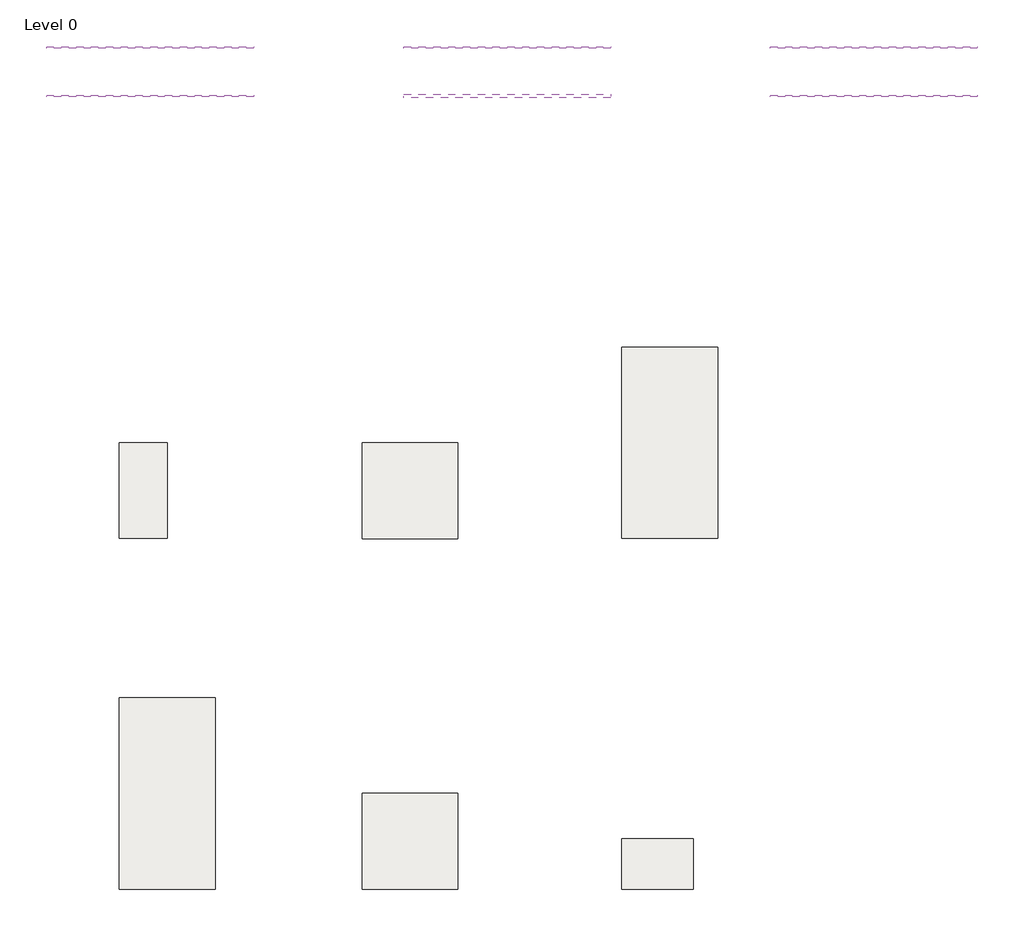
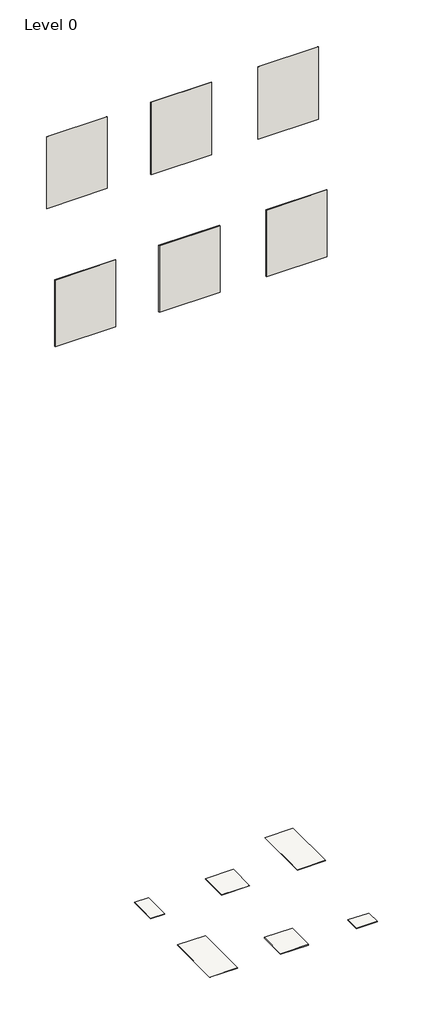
# One storey: 6 slabs, 6 walls.
"""IFC4 building model written with IfcOpenShell, lengths in millimetres."""

from ifc_helpers import new_model, si_unit, frame, origin, place, context, project, spatial, polyline, outline, extrude, element, save

model = new_model("IFC4")

# Units and contexts
model_context = context("Model", 3, world=origin())
ifc_project = project(units=[si_unit("LENGTHUNIT", "METRE", prefix="MILLI")], contexts=[model_context])

# Site, building, storey
site = spatial("IfcSite", under=ifc_project)
building = spatial("IfcBuilding", under=site)
storey = spatial("IfcBuildingStorey", under=building, Name="Level 0", Elevation=0.0)

# Slabs
placement = place(None, origin())
element("IfcSlab", 1, ObjectType="Floor_Tiles_Refin-Blended-Dark-60x120 OA54", at=placement, inside=storey, context=model_context, shape_type="SweptSolid", body=[
    extrude(outline(polyline([(10127.1861419, 6259.4623743), (10127.1861419, 5059.4623743), (9527.1861419, 5059.4623743), (9527.1861419, 6259.4623743), (10127.1861419, 6259.4623743)])), frame((0.0, 0.0, -10.0), z_axis=(0.0, 0.0, 1.0), x_axis=(1.0, 0.0, 0.0)), (0.0, 0.0, 1.0), 10.0),
])
element("IfcSlab", 2, ObjectType="Floor_Tiles_Refin-Blended-Dark-30x60 OA89", at=placement, inside=storey, context=model_context, shape_type="SweptSolid", body=[
    extrude(outline(polyline([(6674.3752062, 5659.4623743), (6674.3752062, 5059.4623743), (6374.3752062, 5059.4623743), (6374.3752062, 5659.4623743), (6674.3752062, 5659.4623743)])), frame((0.0, 0.0, -10.0), z_axis=(0.0, 0.0, 1.0), x_axis=(1.0, 0.0, 0.0)), (0.0, 0.0, 1.0), 10.0),
])
element("IfcSlab", 3, ObjectType="Floor_Tiles_Refin-Blended-Dark-OUT2.0_60X60_OA94", at=placement, inside=storey, context=model_context, shape_type="SweptSolid", body=[
    extrude(outline(polyline([(8497.3924055, 3459.4623743), (8497.3924055, 2859.4623743), (7897.3924055, 2859.4623743), (7897.3924055, 3459.4623743), (8497.3924055, 3459.4623743)])), frame((0.0, 0.0, -21.0), z_axis=(0.0, 0.0, 1.0), x_axis=(1.0, 0.0, 0.0)), (0.0, 0.0, 1.0), 21.0),
])
element("IfcSlab", 4, ObjectType="Floor_Tiles_Refin-Blended-Dark-GRIP-60x120 OB65", at=placement, inside=storey, context=model_context, shape_type="SweptSolid", body=[
    extrude(outline(polyline([(6974.3752062, 4059.4623743), (6974.3752062, 2859.4623743), (6374.3752062, 2859.4623743), (6374.3752062, 4059.4623743), (6974.3752062, 4059.4623743)])), frame((0.0, 0.0, -10.0), z_axis=(0.0, 0.0, 1.0), x_axis=(1.0, 0.0, 0.0)), (0.0, 0.0, 1.0), 10.0),
])
element("IfcSlab", 5, ObjectType="Floor_Tiles_Refin-Blended-Dark-MURETTO_3D-31.5x45 NX92", at=placement, inside=storey, context=model_context, shape_type="SweptSolid", body=[
    extrude(outline(polyline([(9975.4118688, 3174.4623743), (9975.4118688, 2859.4623743), (9525.4118688, 2859.4623743), (9525.4118688, 3174.4623743), (9975.4118688, 3174.4623743)])), frame((0.0, 0.0, -11.0), z_axis=(0.0, 0.0, 1.0), x_axis=(1.0, 0.0, 0.0)), (0.0, 0.0, 1.0), 11.0),
])
element("IfcSlab", 6, ObjectType="Floor_Tiles_Refin-Blended-Dark-60x60 OA84", at=placement, inside=storey, context=model_context, shape_type="SweptSolid", body=[
    extrude(outline(polyline([(8497.3924055, 5658.4192064), (8497.3924055, 5058.4192064), (7897.3924055, 5058.4192064), (7897.3924055, 5658.4192064), (8497.3924055, 5658.4192064)])), frame((0.0, 0.0, -10.0), z_axis=(0.0, 0.0, 1.0), x_axis=(1.0, 0.0, 0.0)), (0.0, 0.0, 1.0), 10.0),
])

# Walls
element("IfcWall", 7, ObjectType="Wall_Tiles_Refin-Blended-Dark-60x60 OA84", at=placement, inside=storey, context=model_context, shape_type="SweptSolid", body=[
    extrude(outline(polyline([(9457.3752062, 8132.3838631), (8157.3752062, 8132.3838631), (8157.3752062, 8142.3838631), (9457.3752062, 8142.3838631), (9457.3752062, 8132.3838631)])), frame((0.0, 0.0, 14387.6770443), z_axis=(0.0, 0.0, 1.0), x_axis=(1.0, 0.0, 0.0)), (0.0, 0.0, 1.0), 1641.7417352),
])
element("IfcWall", 8, ObjectType="Wall_Tiles_Refin-Blended-Dark-60x120 OA54", at=placement, inside=storey, context=model_context, shape_type="SweptSolid", body=[
    extrude(outline(polyline([(11757.3752062, 8132.3838631), (10457.3752062, 8132.3838631), (10457.3752062, 8142.3838631), (11757.3752062, 8142.3838631), (11757.3752062, 8132.3838631)])), frame((0.0, 0.0, 14387.6770443), z_axis=(0.0, 0.0, 1.0), x_axis=(1.0, 0.0, 0.0)), (0.0, 0.0, 1.0), 1641.7417352),
])
element("IfcWall", 9, ObjectType="Wall_Tiles_Refin-Blended-Dark-30x60 OA89", at=placement, inside=storey, context=model_context, shape_type="SweptSolid", body=[
    extrude(outline(polyline([(7217.3752062, 8132.3838631), (5917.3752062, 8132.3838631), (5917.3752062, 8142.3838631), (7217.3752062, 8142.3838631), (7217.3752062, 8132.3838631)])), frame((0.0, 0.0, 14403.7267346), z_axis=(0.0, 0.0, 1.0), x_axis=(1.0, 0.0, 0.0)), (0.0, 0.0, 1.0), 1625.692045),
])
element("IfcWall", 10, ObjectType="Wall_Tiles_Refin-Blended-Dark-GRIP-60x120 OB65", at=placement, inside=storey, context=model_context, shape_type="SweptSolid", body=[
    extrude(outline(polyline([(7217.3752062, 7827.3838631), (5917.3752062, 7827.3838631), (5917.3752062, 7837.3838631), (7217.3752062, 7837.3838631), (7217.3752062, 7827.3838631)])), frame((0.0, 0.0, 11452.5436262), z_axis=(0.0, 0.0, 1.0), x_axis=(1.0, 0.0, 0.0)), (0.0, 0.0, 1.0), 1513.1985566),
])
element("IfcWall", 11, ObjectType="Wall_Tiles_Refin-Blended-Dark-OUT2.0-60x60 OA94", at=placement, inside=storey, context=model_context, shape_type="SweptSolid", body=[
    extrude(outline(polyline([(9457.3752062, 7821.8838631), (8157.3752062, 7821.8838631), (8157.3752062, 7842.8838631), (9457.3752062, 7842.8838631), (9457.3752062, 7821.8838631)])), frame((0.0, 0.0, 11452.5436262), z_axis=(0.0, 0.0, 1.0), x_axis=(1.0, 0.0, 0.0)), (0.0, 0.0, 1.0), 1513.1985566),
])
element("IfcWall", 12, ObjectType="Wall_Tiles_Refin-Blended-Dark-MURETTO_3D-31.5x45 NX92", at=placement, inside=storey, context=model_context, shape_type="SweptSolid", body=[
    extrude(outline(polyline([(11757.3752062, 7826.8838631), (10457.3752062, 7826.8838631), (10457.3752062, 7837.8838631), (11757.3752062, 7837.8838631), (11757.3752062, 7826.8838631)])), frame((0.0, 0.0, 11452.5436262), z_axis=(0.0, 0.0, 1.0), x_axis=(1.0, 0.0, 0.0)), (0.0, 0.0, 1.0), 1513.1985566),
])

save(model, "model.ifc")
